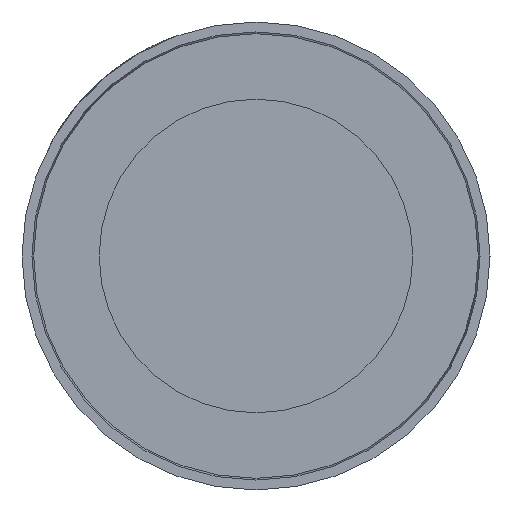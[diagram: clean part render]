
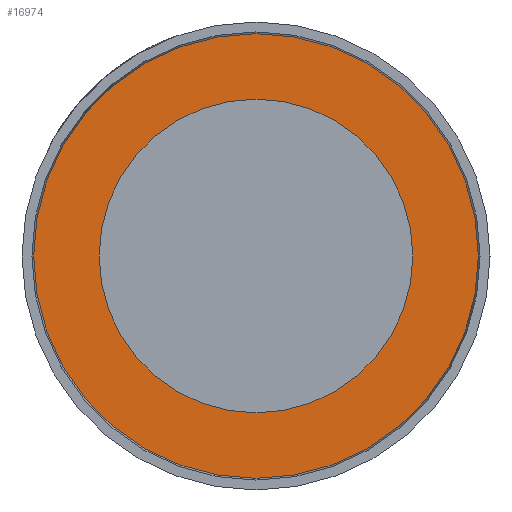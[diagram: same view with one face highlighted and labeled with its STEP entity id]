
A CAD part, left-side view. The second image highlights one B-rep face of the part: STEP entity #16974.
In plain terms, the highlighted planar face has unit normal (-1, 0, 0).
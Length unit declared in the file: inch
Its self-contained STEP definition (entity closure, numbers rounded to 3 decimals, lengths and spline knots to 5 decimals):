
#73 = CARTESIAN_POINT ( 'NONE',  ( 0., 0., 0. ) ) ;
#988 = FACE_OUTER_BOUND ( 'NONE', #13213, .T. ) ;
#1610 = AXIS2_PLACEMENT_3D ( 'NONE', #14078, #2377, #8041 ) ;
#1620 = AXIS2_PLACEMENT_3D ( 'NONE', #18014, #14966, #10985 ) ;
#1664 = EDGE_LOOP ( 'NONE', ( #15736, #15036 ) ) ;
#1876 = CARTESIAN_POINT ( 'NONE',  ( 0., 0., 0. ) ) ;
#2115 = CARTESIAN_POINT ( 'NONE',  ( 0., 0., 0.1675 ) ) ;
#2149 = EDGE_CURVE ( 'NONE', #13099, #18195, #14616, .T. ) ;
#2377 = DIRECTION ( 'NONE',  ( 1., 0., 0. ) ) ;
#2406 = DIRECTION ( 'NONE',  ( 0., 0., 1. ) ) ;
#3046 = CARTESIAN_POINT ( 'NONE',  ( 0., 0., -0.2375 ) ) ;
#3357 = AXIS2_PLACEMENT_3D ( 'NONE', #11739, #14544, #2406 ) ;
#4799 = DIRECTION ( 'NONE',  ( -1., 0., 0. ) ) ;
#6216 = AXIS2_PLACEMENT_3D ( 'NONE', #1876, #9682, #16789 ) ;
#7741 = VERTEX_POINT ( 'NONE', #2115 ) ;
#7923 = VERTEX_POINT ( 'NONE', #12754 ) ;
#7925 = EDGE_CURVE ( 'NONE', #18195, #13099, #11740, .T. ) ;
#8041 = DIRECTION ( 'NONE',  ( 0., 0., -1. ) ) ;
#9682 = DIRECTION ( 'NONE',  ( -1., 0., 0. ) ) ;
#10046 = CIRCLE ( 'NONE', #1620, 0.1675 ) ;
#10413 = CARTESIAN_POINT ( 'NONE',  ( 0., 0., 0.2375 ) ) ;
#10740 = DIRECTION ( 'NONE',  ( 0., 0., 1. ) ) ;
#10769 = ORIENTED_EDGE ( 'NONE', *, *, #2149, .T. ) ;
#10985 = DIRECTION ( 'NONE',  ( 0., 0., 1. ) ) ;
#11252 = ORIENTED_EDGE ( 'NONE', *, *, #7925, .T. ) ;
#11265 = PLANE ( 'NONE',  #1610 ) ;
#11739 = CARTESIAN_POINT ( 'NONE',  ( 0., 0., 0. ) ) ;
#11740 = CIRCLE ( 'NONE', #3357, 0.2375 ) ;
#12527 = AXIS2_PLACEMENT_3D ( 'NONE', #73, #4799, #10740 ) ;
#12754 = CARTESIAN_POINT ( 'NONE',  ( 0., 0., -0.1675 ) ) ;
#13099 = VERTEX_POINT ( 'NONE', #10413 ) ;
#13207 = EDGE_CURVE ( 'NONE', #7923, #7741, #10046, .T. ) ;
#13213 = EDGE_LOOP ( 'NONE', ( #10769, #11252 ) ) ;
#14078 = CARTESIAN_POINT ( 'NONE',  ( 0., 0., 0. ) ) ;
#14544 = DIRECTION ( 'NONE',  ( -1., 0., 0. ) ) ;
#14616 = CIRCLE ( 'NONE', #6216, 0.2375 ) ;
#14966 = DIRECTION ( 'NONE',  ( -1., 0., 0. ) ) ;
#15036 = ORIENTED_EDGE ( 'NONE', *, *, #13207, .F. ) ;
#15736 = ORIENTED_EDGE ( 'NONE', *, *, #18340, .F. ) ;
#16789 = DIRECTION ( 'NONE',  ( 0., 0., 1. ) ) ;
#16974 = ADVANCED_FACE ( 'NONE', ( #16993, #988 ), #11265, .F. ) ;
#16993 = FACE_BOUND ( 'NONE', #1664, .T. ) ;
#17492 = CIRCLE ( 'NONE', #12527, 0.1675 ) ;
#18014 = CARTESIAN_POINT ( 'NONE',  ( 0., 0., 0. ) ) ;
#18195 = VERTEX_POINT ( 'NONE', #3046 ) ;
#18340 = EDGE_CURVE ( 'NONE', #7741, #7923, #17492, .T. ) ;
